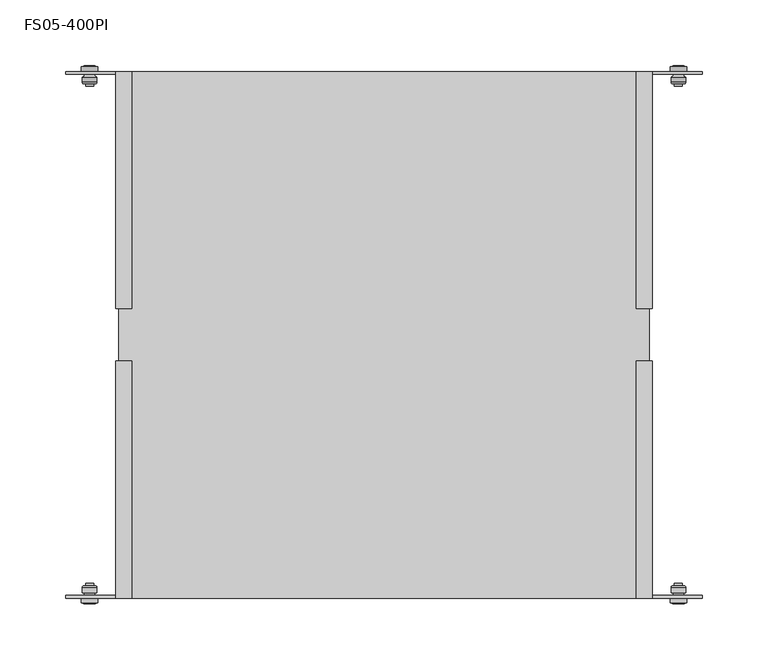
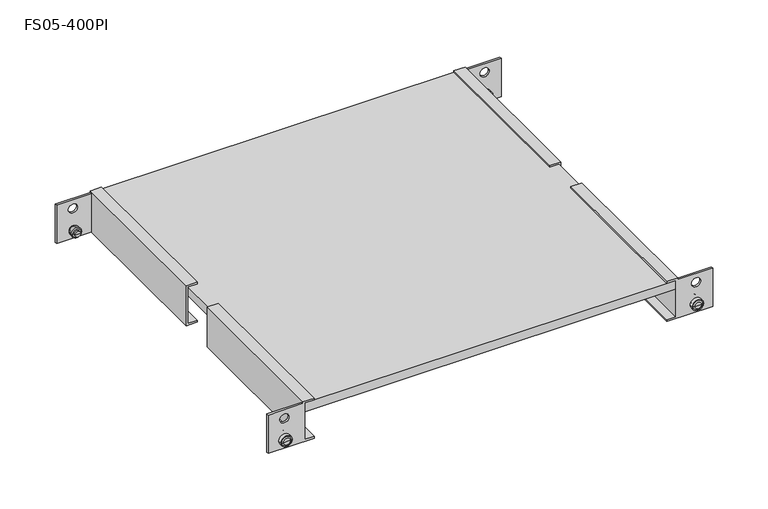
"""IFC4 building model written with IfcOpenShell, lengths in millimetres: proxy geometry, Полки стационарные универсальные : FS05-400PI."""

from ifc_helpers import new_model, si_unit, point, frame, origin, place, context, project, spatial, polyline, circle_curve, ellipse_curve, trimmed, outline, extrude, source, transform, mapped, element, save
from ifc_brep_helpers import plane_surface, cylinder_surface, revolved_surface, advanced_brep


def fs05_400pi_c7cb46ca(model_context):
    return source(origin(), model_context, "Body", "SolidModel", [
        advanced_brep(
        [(223.4822805, 204.3499926, 10.0), (219.9883481, 204.3499926, 10.0), (226.9762128, 204.3499926, 10.0), (226.4822791, 188.7499968, 10.0), (220.4822818, 188.7499968, 10.0), (223.4822805, 188.7499968, 10.0), (226.4822791, 190.7999942, 10.0), (220.4822818, 190.7999942, 10.0), (227.9855464, 190.7999942, 10.0), (218.9790145, 190.7999942, 10.0), (228.9822767, 191.7967245, 10.0), (217.9822842, 191.7967245, 10.0), (228.9822767, 195.8, 10.0), (217.9822842, 195.8, 10.0), (227.6556322, 198.0, 10.0), (219.3089288, 198.0, 10.0), (227.6556322, 200.0, 10.0), (219.3089288, 200.0, 10.0), (229.732282, 200.0, 10.0), (217.232279, 200.0, 10.0), (229.732282, 203.5000006, 10.0), (217.232279, 203.5000006, 10.0), (228.8604456, 203.5000006, 10.0), (218.1041154, 203.5000006, 10.0)],
        [
            (0, 1),
            (1, 2, circle_curve(frame((223.4822805, 204.3499926, 10.0), z_axis=(0.0, 1.0, 0.0), x_axis=(-1.0, 0.0, 0.0)), 3.4939324)),
            (2, 0),
            (2, 1, circle_curve(frame((223.4822805, 204.3499926, 10.0), z_axis=(0.0, 1.0, 0.0), x_axis=(-1.0, 0.0, 0.0)), 3.4939324)),
            (3, 4, circle_curve(frame((223.4822805, 188.7499968, 10.0), z_axis=(0.0, -1.0, 0.0), x_axis=(-1.0, 0.0, 0.0)), 2.9999986)),
            (4, 5),
            (5, 3),
            (4, 3, circle_curve(frame((223.4822805, 188.7499968, 10.0), z_axis=(0.0, -1.0, 0.0), x_axis=(-1.0, 0.0, 0.0)), 2.9999986)),
            (6, 7, circle_curve(frame((223.4822805, 190.7999942, 10.0), z_axis=(0.0, -1.0, 0.0), x_axis=(-1.0, 0.0, 0.0)), 2.9999986)),
            (7, 4),
            (3, 6),
            (7, 6, circle_curve(frame((223.4822805, 190.7999942, 10.0), z_axis=(0.0, -1.0, 0.0), x_axis=(-1.0, 0.0, 0.0)), 2.9999986)),
            (8, 9, circle_curve(frame((223.4822805, 190.7999942, 10.0), z_axis=(0.0, -1.0, 0.0), x_axis=(-1.0, 0.0, 0.0)), 4.503266)),
            (9, 7),
            (6, 8),
            (9, 8, circle_curve(frame((223.4822805, 190.7999942, 10.0), z_axis=(0.0, -1.0, 0.0), x_axis=(-1.0, 0.0, 0.0)), 4.503266)),
            (10, 11, circle_curve(frame((223.4822805, 191.7967245, 10.0), z_axis=(0.0, -1.0, 0.0), x_axis=(-1.0, 0.0, 0.0)), 5.4999962)),
            (11, 9, circle_curve(frame((218.9790145, 191.7967245, 10.0), z_axis=(0.0, 0.0, 1.0), x_axis=(1.0, 0.0, 0.0)), 0.9967303)),
            (8, 10, circle_curve(frame((227.9855464, 191.7967245, 10.0), z_axis=(0.0, 0.0, 1.0), x_axis=(-1.0, 0.0, 0.0)), 0.9967303)),
            (11, 10, circle_curve(frame((223.4822805, 191.7967245, 10.0), z_axis=(0.0, -1.0, 0.0), x_axis=(-1.0, 0.0, 0.0)), 5.4999962)),
            (12, 13, circle_curve(frame((223.4822805, 195.8, 10.0), z_axis=(0.0, -1.0, 0.0), x_axis=(-1.0, 0.0, 0.0)), 5.4999962)),
            (13, 11),
            (10, 12),
            (13, 12, circle_curve(frame((223.4822805, 195.8, 10.0), z_axis=(0.0, -1.0, 0.0), x_axis=(-1.0, 0.0, 0.0)), 5.4999962)),
            (14, 15, circle_curve(frame((223.4822805, 198.0, 10.0), z_axis=(0.0, -1.0, 0.0), x_axis=(-1.0, 0.0, 0.0)), 4.1733517)),
            (15, 13, circle_curve(frame((217.9822789, 197.3, 10.0), z_axis=(0.0, 0.0, -1.0), x_axis=(1.0, 0.0, 0.0)), 1.5)),
            (12, 14, circle_curve(frame((228.9822821, 197.3, 10.0), z_axis=(0.0, 0.0, -1.0), x_axis=(-1.0, 0.0, 0.0)), 1.5)),
            (15, 14, circle_curve(frame((223.4822805, 198.0, 10.0), z_axis=(0.0, -1.0, 0.0), x_axis=(-1.0, 0.0, 0.0)), 4.1733517)),
            (16, 17, circle_curve(frame((223.4822805, 200.0, 10.0), z_axis=(0.0, -1.0, 0.0), x_axis=(-1.0, 0.0, 0.0)), 4.1733517)),
            (17, 15),
            (14, 16),
            (17, 16, circle_curve(frame((223.4822805, 200.0, 10.0), z_axis=(0.0, -1.0, 0.0), x_axis=(-1.0, 0.0, 0.0)), 4.1733517)),
            (18, 19, circle_curve(frame((223.4822805, 200.0, 10.0), z_axis=(0.0, -1.0, 0.0), x_axis=(-1.0, 0.0, 0.0)), 6.2500015)),
            (19, 17),
            (16, 18),
            (19, 18, circle_curve(frame((223.4822805, 200.0, 10.0), z_axis=(0.0, -1.0, 0.0), x_axis=(-1.0, 0.0, 0.0)), 6.2500015)),
            (20, 21, circle_curve(frame((223.4822805, 203.5000006, 10.0), z_axis=(0.0, -1.0, 0.0), x_axis=(-1.0, 0.0, 0.0)), 6.2500015)),
            (21, 19),
            (18, 20),
            (21, 20, circle_curve(frame((223.4822805, 203.5000006, 10.0), z_axis=(0.0, -1.0, 0.0), x_axis=(-1.0, 0.0, 0.0)), 6.2500015)),
            (22, 23, circle_curve(frame((223.4822805, 203.5000006, 10.0), z_axis=(0.0, -1.0, 0.0), x_axis=(-1.0, 0.0, 0.0)), 5.3781651)),
            (23, 21),
            (20, 22),
            (23, 22, circle_curve(frame((223.4822805, 203.5000006, 10.0), z_axis=(0.0, -1.0, 0.0), x_axis=(-1.0, 0.0, 0.0)), 5.3781651)),
            (1, 23, circle_curve(frame((219.9822789, 201.85, 10.0), z_axis=(0.0, 0.0, 1.0), x_axis=(1.0, 0.0, 0.0)), 2.5)),
            (22, 2, circle_curve(frame((226.9822821, 201.85, 10.0), z_axis=(0.0, 0.0, 1.0), x_axis=(-1.0, 0.0, 0.0)), 2.5)),
        ],
        [
            plane_surface(frame((223.4822805, 204.3499926, 10.0), z_axis=(0.0, 1.0, 0.0), x_axis=(-1.0, 0.0, 0.0))),
            plane_surface(frame((223.4822805, 188.7499968, 10.0), z_axis=(0.0, -1.0, 0.0), x_axis=(-1.0, 0.0, 0.0))),
            cylinder_surface(frame((223.4822805, -2409.0581012, 10.0), z_axis=(0.0, 1.0, 0.0), x_axis=(-1.0, 0.0, 0.0)), 2.9999986),
            plane_surface(frame((223.4822805, 190.7999942, 10.0), z_axis=(0.0, -1.0, 0.0), x_axis=(-1.0, 0.0, 0.0))),
            revolved_surface(trimmed(ellipse_curve(frame((218.9790145, 191.7967245, 10.0), z_axis=(0.0, 0.0, -1.0), x_axis=(1.0, 0.0, 0.0)), 0.9967303, 0.9967303), [point((218.9790145, 190.7999942, 10.0))], [point((217.9822842, 191.7967245, 10.0))], True, "CARTESIAN"), (223.4822805, -2409.0581012, 10.0), (0.0, 1.0, 0.0)),
            cylinder_surface(frame((223.4822805, -2409.0581012, 10.0), z_axis=(0.0, 1.0, 0.0), x_axis=(-1.0, 0.0, 0.0)), 5.4999962),
            revolved_surface(trimmed(ellipse_curve(frame((217.9822789, 197.3, 10.0), z_axis=(0.0, 0.0, 1.0), x_axis=(1.0, 0.0, 0.0)), 1.5, 1.5), [point((217.9822842, 195.8, 10.0))], [point((219.3089288, 198.0, 10.0))], True, "CARTESIAN"), (223.4822805, -2409.0581012, 10.0), (0.0, 1.0, 0.0)),
            cylinder_surface(frame((223.4822805, -2409.0581012, 10.0), z_axis=(0.0, 1.0, 0.0), x_axis=(-1.0, 0.0, 0.0)), 4.1733517),
            plane_surface(frame((223.4822805, 200.0, 10.0), z_axis=(0.0, -1.0, 0.0), x_axis=(-1.0, 0.0, 0.0))),
            cylinder_surface(frame((223.4822805, -2409.0581012, 10.0), z_axis=(0.0, 1.0, 0.0), x_axis=(-1.0, 0.0, 0.0)), 6.2500015),
            plane_surface(frame((223.4822805, 203.5000006, 10.0), z_axis=(0.0, 1.0, 0.0), x_axis=(-1.0, 0.0, 0.0))),
            revolved_surface(trimmed(ellipse_curve(frame((219.9822789, 201.85, 10.0), z_axis=(0.0, 0.0, -1.0), x_axis=(1.0, 0.0, 0.0)), 2.5, 2.5), [point((218.1041154, 203.5000006, 10.0))], [point((219.9883481, 204.3499926, 10.0))], True, "CARTESIAN"), (223.4822805, -2409.0581012, 10.0), (0.0, 1.0, 0.0)),
        ],
        [
            (0, [[1, 2, 3]]),
            (0, [[-3, 4, -1]]),
            (1, [[5, 6, 7]]),
            (1, [[8, -7, -6]]),
            (2, [[9, 10, -5, 11]]),
            (2, [[12, -11, -8, -10]]),
            (3, [[13, 14, -9, 15]]),
            (3, [[16, -15, -12, -14]]),
            (4, [[17, 18, -13, 19]]),
            (4, [[20, -19, -16, -18]]),
            (5, [[21, 22, -17, 23]]),
            (5, [[24, -23, -20, -22]]),
            (6, [[25, 26, -21, 27]]),
            (6, [[28, -27, -24, -26]]),
            (7, [[29, 30, -25, 31]]),
            (7, [[32, -31, -28, -30]]),
            (8, [[33, 34, -29, 35]]),
            (8, [[36, -35, -32, -34]]),
            (9, [[37, 38, -33, 39]]),
            (9, [[40, -39, -36, -38]]),
            (10, [[41, 42, -37, 43]]),
            (10, [[44, -43, -40, -42]]),
            (11, [[-2, 45, -41, 46]]),
            (11, [[-4, -46, -44, -45]]),
        ],
    ),
        advanced_brep(
        [(-223.4822805, 204.3499926, 10.0), (-226.9762128, 204.3499926, 10.0), (-219.9883481, 204.3499926, 10.0), (-220.4822818, 188.7499968, 10.0), (-226.4822791, 188.7499968, 10.0), (-223.4822805, 188.7499968, 10.0), (-220.4822818, 190.7999942, 10.0), (-226.4822791, 190.7999942, 10.0), (-218.9790145, 190.7999942, 10.0), (-227.9855464, 190.7999942, 10.0), (-217.9822842, 191.7967245, 10.0), (-228.9822767, 191.7967245, 10.0), (-217.9822842, 195.8, 10.0), (-228.9822767, 195.8, 10.0), (-219.3089288, 198.0, 10.0), (-227.6556322, 198.0, 10.0), (-219.3089288, 200.0, 10.0), (-227.6556322, 200.0, 10.0), (-217.232279, 200.0, 10.0), (-229.732282, 200.0, 10.0), (-217.232279, 203.5000006, 10.0), (-229.732282, 203.5000006, 10.0), (-218.1041154, 203.5000006, 10.0), (-228.8604456, 203.5000006, 10.0)],
        [
            (0, 1),
            (1, 2, circle_curve(frame((-223.4822805, 204.3499926, 10.0), z_axis=(0.0, 1.0, 0.0), x_axis=(-1.0, 0.0, 0.0)), 3.4939324)),
            (2, 0),
            (2, 1, circle_curve(frame((-223.4822805, 204.3499926, 10.0), z_axis=(0.0, 1.0, 0.0), x_axis=(-1.0, 0.0, 0.0)), 3.4939324)),
            (3, 4, circle_curve(frame((-223.4822805, 188.7499968, 10.0), z_axis=(0.0, -1.0, 0.0), x_axis=(-1.0, 0.0, 0.0)), 2.9999986)),
            (4, 5),
            (5, 3),
            (4, 3, circle_curve(frame((-223.4822805, 188.7499968, 10.0), z_axis=(0.0, -1.0, 0.0), x_axis=(-1.0, 0.0, 0.0)), 2.9999986)),
            (6, 7, circle_curve(frame((-223.4822805, 190.7999942, 10.0), z_axis=(0.0, -1.0, 0.0), x_axis=(-1.0, 0.0, 0.0)), 2.9999986)),
            (7, 4),
            (3, 6),
            (7, 6, circle_curve(frame((-223.4822805, 190.7999942, 10.0), z_axis=(0.0, -1.0, 0.0), x_axis=(-1.0, 0.0, 0.0)), 2.9999986)),
            (8, 9, circle_curve(frame((-223.4822805, 190.7999942, 10.0), z_axis=(0.0, -1.0, 0.0), x_axis=(-1.0, 0.0, 0.0)), 4.503266)),
            (9, 7),
            (6, 8),
            (9, 8, circle_curve(frame((-223.4822805, 190.7999942, 10.0), z_axis=(0.0, -1.0, 0.0), x_axis=(-1.0, 0.0, 0.0)), 4.503266)),
            (10, 11, circle_curve(frame((-223.4822805, 191.7967245, 10.0), z_axis=(0.0, -1.0, 0.0), x_axis=(-1.0, 0.0, 0.0)), 5.4999962)),
            (11, 9, circle_curve(frame((-227.9855464, 191.7967245, 10.0), z_axis=(0.0, 0.0, 1.0), x_axis=(1.0, 0.0, 0.0)), 0.9967303)),
            (8, 10, circle_curve(frame((-218.9790145, 191.7967245, 10.0), z_axis=(0.0, 0.0, 1.0), x_axis=(-1.0, 0.0, 0.0)), 0.9967303)),
            (11, 10, circle_curve(frame((-223.4822805, 191.7967245, 10.0), z_axis=(0.0, -1.0, 0.0), x_axis=(-1.0, 0.0, 0.0)), 5.4999962)),
            (12, 13, circle_curve(frame((-223.4822805, 195.8, 10.0), z_axis=(0.0, -1.0, 0.0), x_axis=(-1.0, 0.0, 0.0)), 5.4999962)),
            (13, 11),
            (10, 12),
            (13, 12, circle_curve(frame((-223.4822805, 195.8, 10.0), z_axis=(0.0, -1.0, 0.0), x_axis=(-1.0, 0.0, 0.0)), 5.4999962)),
            (14, 15, circle_curve(frame((-223.4822805, 198.0, 10.0), z_axis=(0.0, -1.0, 0.0), x_axis=(-1.0, 0.0, 0.0)), 4.1733517)),
            (15, 13, circle_curve(frame((-228.9822821, 197.3, 10.0), z_axis=(0.0, 0.0, -1.0), x_axis=(1.0, 0.0, 0.0)), 1.5)),
            (12, 14, circle_curve(frame((-217.9822789, 197.3, 10.0), z_axis=(0.0, 0.0, -1.0), x_axis=(-1.0, 0.0, 0.0)), 1.5)),
            (15, 14, circle_curve(frame((-223.4822805, 198.0, 10.0), z_axis=(0.0, -1.0, 0.0), x_axis=(-1.0, 0.0, 0.0)), 4.1733517)),
            (16, 17, circle_curve(frame((-223.4822805, 200.0, 10.0), z_axis=(0.0, -1.0, 0.0), x_axis=(-1.0, 0.0, 0.0)), 4.1733517)),
            (17, 15),
            (14, 16),
            (17, 16, circle_curve(frame((-223.4822805, 200.0, 10.0), z_axis=(0.0, -1.0, 0.0), x_axis=(-1.0, 0.0, 0.0)), 4.1733517)),
            (18, 19, circle_curve(frame((-223.4822805, 200.0, 10.0), z_axis=(0.0, -1.0, 0.0), x_axis=(-1.0, 0.0, 0.0)), 6.2500015)),
            (19, 17),
            (16, 18),
            (19, 18, circle_curve(frame((-223.4822805, 200.0, 10.0), z_axis=(0.0, -1.0, 0.0), x_axis=(-1.0, 0.0, 0.0)), 6.2500015)),
            (20, 21, circle_curve(frame((-223.4822805, 203.5000006, 10.0), z_axis=(0.0, -1.0, 0.0), x_axis=(-1.0, 0.0, 0.0)), 6.2500015)),
            (21, 19),
            (18, 20),
            (21, 20, circle_curve(frame((-223.4822805, 203.5000006, 10.0), z_axis=(0.0, -1.0, 0.0), x_axis=(-1.0, 0.0, 0.0)), 6.2500015)),
            (22, 23, circle_curve(frame((-223.4822805, 203.5000006, 10.0), z_axis=(0.0, -1.0, 0.0), x_axis=(-1.0, 0.0, 0.0)), 5.3781651)),
            (23, 21),
            (20, 22),
            (23, 22, circle_curve(frame((-223.4822805, 203.5000006, 10.0), z_axis=(0.0, -1.0, 0.0), x_axis=(-1.0, 0.0, 0.0)), 5.3781651)),
            (1, 23, circle_curve(frame((-226.9822821, 201.85, 10.0), z_axis=(0.0, 0.0, 1.0), x_axis=(1.0, 0.0, 0.0)), 2.5)),
            (22, 2, circle_curve(frame((-219.9822789, 201.85, 10.0), z_axis=(0.0, 0.0, 1.0), x_axis=(-1.0, 0.0, 0.0)), 2.5)),
        ],
        [
            plane_surface(frame((-223.4822805, 204.3499926, 10.0), z_axis=(0.0, 1.0, 0.0), x_axis=(-1.0, 0.0, 0.0))),
            plane_surface(frame((-223.4822805, 188.7499968, 10.0), z_axis=(0.0, -1.0, 0.0), x_axis=(-1.0, 0.0, 0.0))),
            cylinder_surface(frame((-223.4822805, -2409.0581012, 10.0), z_axis=(0.0, 1.0, 0.0), x_axis=(-1.0, 0.0, 0.0)), 2.9999986),
            plane_surface(frame((-223.4822805, 190.7999942, 10.0), z_axis=(0.0, -1.0, 0.0), x_axis=(-1.0, 0.0, 0.0))),
            revolved_surface(trimmed(ellipse_curve(frame((-227.9855464, 191.7967245, 10.0), z_axis=(0.0, 0.0, -1.0), x_axis=(1.0, 0.0, 0.0)), 0.9967303, 0.9967303), [point((-227.9855464, 190.7999942, 10.0))], [point((-228.9822767, 191.7967245, 10.0))], True, "CARTESIAN"), (-223.4822805, -2409.0581012, 10.0), (0.0, 1.0, 0.0)),
            cylinder_surface(frame((-223.4822805, -2409.0581012, 10.0), z_axis=(0.0, 1.0, 0.0), x_axis=(-1.0, 0.0, 0.0)), 5.4999962),
            revolved_surface(trimmed(ellipse_curve(frame((-228.9822821, 197.3, 10.0), z_axis=(0.0, 0.0, 1.0), x_axis=(1.0, 0.0, 0.0)), 1.5, 1.5), [point((-228.9822767, 195.8, 10.0))], [point((-227.6556322, 198.0, 10.0))], True, "CARTESIAN"), (-223.4822805, -2409.0581012, 10.0), (0.0, 1.0, 0.0)),
            cylinder_surface(frame((-223.4822805, -2409.0581012, 10.0), z_axis=(0.0, 1.0, 0.0), x_axis=(-1.0, 0.0, 0.0)), 4.1733517),
            plane_surface(frame((-223.4822805, 200.0, 10.0), z_axis=(0.0, -1.0, 0.0), x_axis=(-1.0, 0.0, 0.0))),
            cylinder_surface(frame((-223.4822805, -2409.0581012, 10.0), z_axis=(0.0, 1.0, 0.0), x_axis=(-1.0, 0.0, 0.0)), 6.2500015),
            plane_surface(frame((-223.4822805, 203.5000006, 10.0), z_axis=(0.0, 1.0, 0.0), x_axis=(-1.0, 0.0, 0.0))),
            revolved_surface(trimmed(ellipse_curve(frame((-226.9822821, 201.85, 10.0), z_axis=(0.0, 0.0, -1.0), x_axis=(1.0, 0.0, 0.0)), 2.5, 2.5), [point((-228.8604456, 203.5000006, 10.0))], [point((-226.9762128, 204.3499926, 10.0))], True, "CARTESIAN"), (-223.4822805, -2409.0581012, 10.0), (0.0, 1.0, 0.0)),
        ],
        [
            (0, [[1, 2, 3]]),
            (0, [[-3, 4, -1]]),
            (1, [[5, 6, 7]]),
            (1, [[8, -7, -6]]),
            (2, [[9, 10, -5, 11]]),
            (2, [[12, -11, -8, -10]]),
            (3, [[13, 14, -9, 15]]),
            (3, [[16, -15, -12, -14]]),
            (4, [[17, 18, -13, 19]]),
            (4, [[20, -19, -16, -18]]),
            (5, [[21, 22, -17, 23]]),
            (5, [[24, -23, -20, -22]]),
            (6, [[25, 26, -21, 27]]),
            (6, [[28, -27, -24, -26]]),
            (7, [[29, 30, -25, 31]]),
            (7, [[32, -31, -28, -30]]),
            (8, [[33, 34, -29, 35]]),
            (8, [[36, -35, -32, -34]]),
            (9, [[37, 38, -33, 39]]),
            (9, [[40, -39, -36, -38]]),
            (10, [[41, 42, -37, 43]]),
            (10, [[44, -43, -40, -42]]),
            (11, [[-2, 45, -41, 46]]),
            (11, [[-4, -46, -44, -45]]),
        ],
    ),
        advanced_brep(
        [(-223.4822805, -204.3499926, 10.0), (-219.9883481, -204.3499926, 10.0), (-226.9762128, -204.3499926, 10.0), (-226.4822791, -188.7499968, 10.0), (-220.4822818, -188.7499968, 10.0), (-223.4822805, -188.7499968, 10.0), (-226.4822791, -190.7999942, 10.0), (-220.4822818, -190.7999942, 10.0), (-227.9855464, -190.7999942, 10.0), (-218.9790145, -190.7999942, 10.0), (-228.9822767, -191.7967245, 10.0), (-217.9822842, -191.7967245, 10.0), (-228.9822767, -195.8, 10.0), (-217.9822842, -195.8, 10.0), (-227.6556322, -198.0, 10.0), (-219.3089288, -198.0, 10.0), (-227.6556322, -200.0, 10.0), (-219.3089288, -200.0, 10.0), (-229.732282, -200.0, 10.0), (-217.232279, -200.0, 10.0), (-229.732282, -203.5000006, 10.0), (-217.232279, -203.5000006, 10.0), (-228.8604456, -203.5000006, 10.0), (-218.1041154, -203.5000006, 10.0)],
        [
            (0, 1),
            (1, 2, circle_curve(frame((-223.4822805, -204.3499926, 10.0), z_axis=(0.0, -1.0, 0.0), x_axis=(1.0, 0.0, 0.0)), 3.4939324)),
            (2, 0),
            (2, 1, circle_curve(frame((-223.4822805, -204.3499926, 10.0), z_axis=(0.0, -1.0, 0.0), x_axis=(1.0, 0.0, 0.0)), 3.4939324)),
            (3, 4, circle_curve(frame((-223.4822805, -188.7499968, 10.0), z_axis=(0.0, 1.0, 0.0), x_axis=(1.0, 0.0, 0.0)), 2.9999986)),
            (4, 5),
            (5, 3),
            (4, 3, circle_curve(frame((-223.4822805, -188.7499968, 10.0), z_axis=(0.0, 1.0, 0.0), x_axis=(1.0, 0.0, 0.0)), 2.9999986)),
            (6, 7, circle_curve(frame((-223.4822805, -190.7999942, 10.0), z_axis=(0.0, 1.0, 0.0), x_axis=(1.0, 0.0, 0.0)), 2.9999986)),
            (7, 4),
            (3, 6),
            (7, 6, circle_curve(frame((-223.4822805, -190.7999942, 10.0), z_axis=(0.0, 1.0, 0.0), x_axis=(1.0, 0.0, 0.0)), 2.9999986)),
            (8, 9, circle_curve(frame((-223.4822805, -190.7999942, 10.0), z_axis=(0.0, 1.0, 0.0), x_axis=(1.0, 0.0, 0.0)), 4.503266)),
            (9, 7),
            (6, 8),
            (9, 8, circle_curve(frame((-223.4822805, -190.7999942, 10.0), z_axis=(0.0, 1.0, 0.0), x_axis=(1.0, 0.0, 0.0)), 4.503266)),
            (10, 11, circle_curve(frame((-223.4822805, -191.7967245, 10.0), z_axis=(0.0, 1.0, 0.0), x_axis=(1.0, 0.0, 0.0)), 5.4999962)),
            (11, 9, circle_curve(frame((-218.9790145, -191.7967245, 10.0), z_axis=(0.0, 0.0, 1.0), x_axis=(-1.0, 0.0, 0.0)), 0.9967303)),
            (8, 10, circle_curve(frame((-227.9855464, -191.7967245, 10.0), z_axis=(0.0, 0.0, 1.0), x_axis=(1.0, 0.0, 0.0)), 0.9967303)),
            (11, 10, circle_curve(frame((-223.4822805, -191.7967245, 10.0), z_axis=(0.0, 1.0, 0.0), x_axis=(1.0, 0.0, 0.0)), 5.4999962)),
            (12, 13, circle_curve(frame((-223.4822805, -195.8, 10.0), z_axis=(0.0, 1.0, 0.0), x_axis=(1.0, 0.0, 0.0)), 5.4999962)),
            (13, 11),
            (10, 12),
            (13, 12, circle_curve(frame((-223.4822805, -195.8, 10.0), z_axis=(0.0, 1.0, 0.0), x_axis=(1.0, 0.0, 0.0)), 5.4999962)),
            (14, 15, circle_curve(frame((-223.4822805, -198.0, 10.0), z_axis=(0.0, 1.0, 0.0), x_axis=(1.0, 0.0, 0.0)), 4.1733517)),
            (15, 13, circle_curve(frame((-217.9822789, -197.3, 10.0), z_axis=(0.0, 0.0, -1.0), x_axis=(-1.0, 0.0, 0.0)), 1.5)),
            (12, 14, circle_curve(frame((-228.9822821, -197.3, 10.0), z_axis=(0.0, 0.0, -1.0), x_axis=(1.0, 0.0, 0.0)), 1.5)),
            (15, 14, circle_curve(frame((-223.4822805, -198.0, 10.0), z_axis=(0.0, 1.0, 0.0), x_axis=(1.0, 0.0, 0.0)), 4.1733517)),
            (16, 17, circle_curve(frame((-223.4822805, -200.0, 10.0), z_axis=(0.0, 1.0, 0.0), x_axis=(1.0, 0.0, 0.0)), 4.1733517)),
            (17, 15),
            (14, 16),
            (17, 16, circle_curve(frame((-223.4822805, -200.0, 10.0), z_axis=(0.0, 1.0, 0.0), x_axis=(1.0, 0.0, 0.0)), 4.1733517)),
            (18, 19, circle_curve(frame((-223.4822805, -200.0, 10.0), z_axis=(0.0, 1.0, 0.0), x_axis=(1.0, 0.0, 0.0)), 6.2500015)),
            (19, 17),
            (16, 18),
            (19, 18, circle_curve(frame((-223.4822805, -200.0, 10.0), z_axis=(0.0, 1.0, 0.0), x_axis=(1.0, 0.0, 0.0)), 6.2500015)),
            (20, 21, circle_curve(frame((-223.4822805, -203.5000006, 10.0), z_axis=(0.0, 1.0, 0.0), x_axis=(1.0, 0.0, 0.0)), 6.2500015)),
            (21, 19),
            (18, 20),
            (21, 20, circle_curve(frame((-223.4822805, -203.5000006, 10.0), z_axis=(0.0, 1.0, 0.0), x_axis=(1.0, 0.0, 0.0)), 6.2500015)),
            (22, 23, circle_curve(frame((-223.4822805, -203.5000006, 10.0), z_axis=(0.0, 1.0, 0.0), x_axis=(1.0, 0.0, 0.0)), 5.3781651)),
            (23, 21),
            (20, 22),
            (23, 22, circle_curve(frame((-223.4822805, -203.5000006, 10.0), z_axis=(0.0, 1.0, 0.0), x_axis=(1.0, 0.0, 0.0)), 5.3781651)),
            (1, 23, circle_curve(frame((-219.9822789, -201.85, 10.0), z_axis=(0.0, 0.0, 1.0), x_axis=(-1.0, 0.0, 0.0)), 2.5)),
            (22, 2, circle_curve(frame((-226.9822821, -201.85, 10.0), z_axis=(0.0, 0.0, 1.0), x_axis=(1.0, 0.0, 0.0)), 2.5)),
        ],
        [
            plane_surface(frame((-223.4822805, -204.3499926, 10.0), z_axis=(0.0, -1.0, 0.0), x_axis=(1.0, 0.0, 0.0))),
            plane_surface(frame((-223.4822805, -188.7499968, 10.0), z_axis=(0.0, 1.0, 0.0), x_axis=(1.0, 0.0, 0.0))),
            cylinder_surface(frame((-223.4822805, 2409.0581012, 10.0), z_axis=(0.0, -1.0, 0.0), x_axis=(1.0, 0.0, 0.0)), 2.9999986),
            plane_surface(frame((-223.4822805, -190.7999942, 10.0), z_axis=(0.0, 1.0, 0.0), x_axis=(1.0, 0.0, 0.0))),
            revolved_surface(trimmed(ellipse_curve(frame((-218.9790145, -191.7967245, 10.0), z_axis=(0.0, 0.0, -1.0), x_axis=(-1.0, 0.0, 0.0)), 0.9967303, 0.9967303), [point((-218.9790145, -190.7999942, 10.0))], [point((-217.9822842, -191.7967245, 10.0))], True, "CARTESIAN"), (-223.4822805, 2409.0581012, 10.0), (0.0, -1.0, 0.0)),
            cylinder_surface(frame((-223.4822805, 2409.0581012, 10.0), z_axis=(0.0, -1.0, 0.0), x_axis=(1.0, 0.0, 0.0)), 5.4999962),
            revolved_surface(trimmed(ellipse_curve(frame((-217.9822789, -197.3, 10.0), z_axis=(0.0, 0.0, 1.0), x_axis=(-1.0, 0.0, 0.0)), 1.5, 1.5), [point((-217.9822842, -195.8, 10.0))], [point((-219.3089288, -198.0, 10.0))], True, "CARTESIAN"), (-223.4822805, 2409.0581012, 10.0), (0.0, -1.0, 0.0)),
            cylinder_surface(frame((-223.4822805, 2409.0581012, 10.0), z_axis=(0.0, -1.0, 0.0), x_axis=(1.0, 0.0, 0.0)), 4.1733517),
            plane_surface(frame((-223.4822805, -200.0, 10.0), z_axis=(0.0, 1.0, 0.0), x_axis=(1.0, 0.0, 0.0))),
            cylinder_surface(frame((-223.4822805, 2409.0581012, 10.0), z_axis=(0.0, -1.0, 0.0), x_axis=(1.0, 0.0, 0.0)), 6.2500015),
            plane_surface(frame((-223.4822805, -203.5000006, 10.0), z_axis=(0.0, -1.0, 0.0), x_axis=(1.0, 0.0, 0.0))),
            revolved_surface(trimmed(ellipse_curve(frame((-219.9822789, -201.85, 10.0), z_axis=(0.0, 0.0, -1.0), x_axis=(-1.0, 0.0, 0.0)), 2.5, 2.5), [point((-218.1041154, -203.5000006, 10.0))], [point((-219.9883481, -204.3499926, 10.0))], True, "CARTESIAN"), (-223.4822805, 2409.0581012, 10.0), (0.0, -1.0, 0.0)),
        ],
        [
            (0, [[1, 2, 3]]),
            (0, [[-3, 4, -1]]),
            (1, [[5, 6, 7]]),
            (1, [[8, -7, -6]]),
            (2, [[9, 10, -5, 11]]),
            (2, [[12, -11, -8, -10]]),
            (3, [[13, 14, -9, 15]]),
            (3, [[16, -15, -12, -14]]),
            (4, [[17, 18, -13, 19]]),
            (4, [[20, -19, -16, -18]]),
            (5, [[21, 22, -17, 23]]),
            (5, [[24, -23, -20, -22]]),
            (6, [[25, 26, -21, 27]]),
            (6, [[28, -27, -24, -26]]),
            (7, [[29, 30, -25, 31]]),
            (7, [[32, -31, -28, -30]]),
            (8, [[33, 34, -29, 35]]),
            (8, [[36, -35, -32, -34]]),
            (9, [[37, 38, -33, 39]]),
            (9, [[40, -39, -36, -38]]),
            (10, [[41, 42, -37, 43]]),
            (10, [[44, -43, -40, -42]]),
            (11, [[-2, 45, -41, 46]]),
            (11, [[-4, -46, -44, -45]]),
        ],
    ),
        advanced_brep(
        [(223.4822805, -204.3499926, 10.0), (226.9762128, -204.3499926, 10.0), (219.9883481, -204.3499926, 10.0), (220.4822818, -188.7499968, 10.0), (226.4822791, -188.7499968, 10.0), (223.4822805, -188.7499968, 10.0), (220.4822818, -190.7999942, 10.0), (226.4822791, -190.7999942, 10.0), (218.9790145, -190.7999942, 10.0), (227.9855464, -190.7999942, 10.0), (217.9822842, -191.7967245, 10.0), (228.9822767, -191.7967245, 10.0), (217.9822842, -195.8, 10.0), (228.9822767, -195.8, 10.0), (219.3089288, -198.0, 10.0), (227.6556322, -198.0, 10.0), (219.3089288, -200.0, 10.0), (227.6556322, -200.0, 10.0), (217.232279, -200.0, 10.0), (229.732282, -200.0, 10.0), (217.232279, -203.5000006, 10.0), (229.732282, -203.5000006, 10.0), (218.1041154, -203.5000006, 10.0), (228.8604456, -203.5000006, 10.0)],
        [
            (0, 1),
            (1, 2, circle_curve(frame((223.4822805, -204.3499926, 10.0), z_axis=(0.0, -1.0, 0.0), x_axis=(1.0, 0.0, 0.0)), 3.4939324)),
            (2, 0),
            (2, 1, circle_curve(frame((223.4822805, -204.3499926, 10.0), z_axis=(0.0, -1.0, 0.0), x_axis=(1.0, 0.0, 0.0)), 3.4939324)),
            (3, 4, circle_curve(frame((223.4822805, -188.7499968, 10.0), z_axis=(0.0, 1.0, 0.0), x_axis=(1.0, 0.0, 0.0)), 2.9999986)),
            (4, 5),
            (5, 3),
            (4, 3, circle_curve(frame((223.4822805, -188.7499968, 10.0), z_axis=(0.0, 1.0, 0.0), x_axis=(1.0, 0.0, 0.0)), 2.9999986)),
            (6, 7, circle_curve(frame((223.4822805, -190.7999942, 10.0), z_axis=(0.0, 1.0, 0.0), x_axis=(1.0, 0.0, 0.0)), 2.9999986)),
            (7, 4),
            (3, 6),
            (7, 6, circle_curve(frame((223.4822805, -190.7999942, 10.0), z_axis=(0.0, 1.0, 0.0), x_axis=(1.0, 0.0, 0.0)), 2.9999986)),
            (8, 9, circle_curve(frame((223.4822805, -190.7999942, 10.0), z_axis=(0.0, 1.0, 0.0), x_axis=(1.0, 0.0, 0.0)), 4.503266)),
            (9, 7),
            (6, 8),
            (9, 8, circle_curve(frame((223.4822805, -190.7999942, 10.0), z_axis=(0.0, 1.0, 0.0), x_axis=(1.0, 0.0, 0.0)), 4.503266)),
            (10, 11, circle_curve(frame((223.4822805, -191.7967245, 10.0), z_axis=(0.0, 1.0, 0.0), x_axis=(1.0, 0.0, 0.0)), 5.4999962)),
            (11, 9, circle_curve(frame((227.9855464, -191.7967245, 10.0), z_axis=(0.0, 0.0, 1.0), x_axis=(-1.0, 0.0, 0.0)), 0.9967303)),
            (8, 10, circle_curve(frame((218.9790145, -191.7967245, 10.0), z_axis=(0.0, 0.0, 1.0), x_axis=(1.0, 0.0, 0.0)), 0.9967303)),
            (11, 10, circle_curve(frame((223.4822805, -191.7967245, 10.0), z_axis=(0.0, 1.0, 0.0), x_axis=(1.0, 0.0, 0.0)), 5.4999962)),
            (12, 13, circle_curve(frame((223.4822805, -195.8, 10.0), z_axis=(0.0, 1.0, 0.0), x_axis=(1.0, 0.0, 0.0)), 5.4999962)),
            (13, 11),
            (10, 12),
            (13, 12, circle_curve(frame((223.4822805, -195.8, 10.0), z_axis=(0.0, 1.0, 0.0), x_axis=(1.0, 0.0, 0.0)), 5.4999962)),
            (14, 15, circle_curve(frame((223.4822805, -198.0, 10.0), z_axis=(0.0, 1.0, 0.0), x_axis=(1.0, 0.0, 0.0)), 4.1733517)),
            (15, 13, circle_curve(frame((228.9822821, -197.3, 10.0), z_axis=(0.0, 0.0, -1.0), x_axis=(-1.0, 0.0, 0.0)), 1.5)),
            (12, 14, circle_curve(frame((217.9822789, -197.3, 10.0), z_axis=(0.0, 0.0, -1.0), x_axis=(1.0, 0.0, 0.0)), 1.5)),
            (15, 14, circle_curve(frame((223.4822805, -198.0, 10.0), z_axis=(0.0, 1.0, 0.0), x_axis=(1.0, 0.0, 0.0)), 4.1733517)),
            (16, 17, circle_curve(frame((223.4822805, -200.0, 10.0), z_axis=(0.0, 1.0, 0.0), x_axis=(1.0, 0.0, 0.0)), 4.1733517)),
            (17, 15),
            (14, 16),
            (17, 16, circle_curve(frame((223.4822805, -200.0, 10.0), z_axis=(0.0, 1.0, 0.0), x_axis=(1.0, 0.0, 0.0)), 4.1733517)),
            (18, 19, circle_curve(frame((223.4822805, -200.0, 10.0), z_axis=(0.0, 1.0, 0.0), x_axis=(1.0, 0.0, 0.0)), 6.2500015)),
            (19, 17),
            (16, 18),
            (19, 18, circle_curve(frame((223.4822805, -200.0, 10.0), z_axis=(0.0, 1.0, 0.0), x_axis=(1.0, 0.0, 0.0)), 6.2500015)),
            (20, 21, circle_curve(frame((223.4822805, -203.5000006, 10.0), z_axis=(0.0, 1.0, 0.0), x_axis=(1.0, 0.0, 0.0)), 6.2500015)),
            (21, 19),
            (18, 20),
            (21, 20, circle_curve(frame((223.4822805, -203.5000006, 10.0), z_axis=(0.0, 1.0, 0.0), x_axis=(1.0, 0.0, 0.0)), 6.2500015)),
            (22, 23, circle_curve(frame((223.4822805, -203.5000006, 10.0), z_axis=(0.0, 1.0, 0.0), x_axis=(1.0, 0.0, 0.0)), 5.3781651)),
            (23, 21),
            (20, 22),
            (23, 22, circle_curve(frame((223.4822805, -203.5000006, 10.0), z_axis=(0.0, 1.0, 0.0), x_axis=(1.0, 0.0, 0.0)), 5.3781651)),
            (1, 23, circle_curve(frame((226.9822821, -201.85, 10.0), z_axis=(0.0, 0.0, 1.0), x_axis=(-1.0, 0.0, 0.0)), 2.5)),
            (22, 2, circle_curve(frame((219.9822789, -201.85, 10.0), z_axis=(0.0, 0.0, 1.0), x_axis=(1.0, 0.0, 0.0)), 2.5)),
        ],
        [
            plane_surface(frame((223.4822805, -204.3499926, 10.0), z_axis=(0.0, -1.0, 0.0), x_axis=(1.0, 0.0, 0.0))),
            plane_surface(frame((223.4822805, -188.7499968, 10.0), z_axis=(0.0, 1.0, 0.0), x_axis=(1.0, 0.0, 0.0))),
            cylinder_surface(frame((223.4822805, 2409.0581012, 10.0), z_axis=(0.0, -1.0, 0.0), x_axis=(1.0, 0.0, 0.0)), 2.9999986),
            plane_surface(frame((223.4822805, -190.7999942, 10.0), z_axis=(0.0, 1.0, 0.0), x_axis=(1.0, 0.0, 0.0))),
            revolved_surface(trimmed(ellipse_curve(frame((227.9855464, -191.7967245, 10.0), z_axis=(0.0, 0.0, -1.0), x_axis=(-1.0, 0.0, 0.0)), 0.9967303, 0.9967303), [point((227.9855464, -190.7999942, 10.0))], [point((228.9822767, -191.7967245, 10.0))], True, "CARTESIAN"), (223.4822805, 2409.0581012, 10.0), (0.0, -1.0, 0.0)),
            cylinder_surface(frame((223.4822805, 2409.0581012, 10.0), z_axis=(0.0, -1.0, 0.0), x_axis=(1.0, 0.0, 0.0)), 5.4999962),
            revolved_surface(trimmed(ellipse_curve(frame((228.9822821, -197.3, 10.0), z_axis=(0.0, 0.0, 1.0), x_axis=(-1.0, 0.0, 0.0)), 1.5, 1.5), [point((228.9822767, -195.8, 10.0))], [point((227.6556322, -198.0, 10.0))], True, "CARTESIAN"), (223.4822805, 2409.0581012, 10.0), (0.0, -1.0, 0.0)),
            cylinder_surface(frame((223.4822805, 2409.0581012, 10.0), z_axis=(0.0, -1.0, 0.0), x_axis=(1.0, 0.0, 0.0)), 4.1733517),
            plane_surface(frame((223.4822805, -200.0, 10.0), z_axis=(0.0, 1.0, 0.0), x_axis=(1.0, 0.0, 0.0))),
            cylinder_surface(frame((223.4822805, 2409.0581012, 10.0), z_axis=(0.0, -1.0, 0.0), x_axis=(1.0, 0.0, 0.0)), 6.2500015),
            plane_surface(frame((223.4822805, -203.5000006, 10.0), z_axis=(0.0, -1.0, 0.0), x_axis=(1.0, 0.0, 0.0))),
            revolved_surface(trimmed(ellipse_curve(frame((226.9822821, -201.85, 10.0), z_axis=(0.0, 0.0, -1.0), x_axis=(-1.0, 0.0, 0.0)), 2.5, 2.5), [point((228.8604456, -203.5000006, 10.0))], [point((226.9762128, -204.3499926, 10.0))], True, "CARTESIAN"), (223.4822805, 2409.0581012, 10.0), (0.0, -1.0, 0.0)),
        ],
        [
            (0, [[1, 2, 3]]),
            (0, [[-3, 4, -1]]),
            (1, [[5, 6, 7]]),
            (1, [[8, -7, -6]]),
            (2, [[9, 10, -5, 11]]),
            (2, [[12, -11, -8, -10]]),
            (3, [[13, 14, -9, 15]]),
            (3, [[16, -15, -12, -14]]),
            (4, [[17, 18, -13, 19]]),
            (4, [[20, -19, -16, -18]]),
            (5, [[21, 22, -17, 23]]),
            (5, [[24, -23, -20, -22]]),
            (6, [[25, 26, -21, 27]]),
            (6, [[28, -27, -24, -26]]),
            (7, [[29, 30, -25, 31]]),
            (7, [[32, -31, -28, -30]]),
            (8, [[33, 34, -29, 35]]),
            (8, [[36, -35, -32, -34]]),
            (9, [[37, 38, -33, 39]]),
            (9, [[40, -39, -36, -38]]),
            (10, [[41, 42, -37, 43]]),
            (10, [[44, -43, -40, -42]]),
            (11, [[-2, 45, -41, 46]]),
            (11, [[-4, -46, -44, -45]]),
        ],
    ),
        advanced_brep(
        [(-191.5, -200.0, 44.0), (-191.5, -200.0, 46.0), (-203.5, -200.0, 46.0), (-203.5, -200.0, 44.0), (-241.5, -200.0, 44.0), (-241.5, -200.0, 0.0), (-191.5, -200.0, 0.0), (-191.5, -200.0, 2.0), (-201.5, -200.0, 2.0), (-201.5, -200.0, 44.0), (-218.6086696, -200.0, 34.0), (-228.6086696, -200.0, 34.0), (-191.5, -20.0, 44.0), (-201.5, -20.0, 44.0), (-201.5, -20.0, 2.0), (-191.5, -20.0, 2.0), (-191.5, -20.0, 0.0), (-203.5, -20.0, 0.0), (-203.5, -20.0, 46.0), (-191.5, -20.0, 46.0), (-203.5, -198.0, 0.0), (-203.5, -198.0, 44.0), (-241.5, -198.0, 0.0), (-241.5, -198.0, 44.0), (-228.6086696, -198.0, 34.0), (-218.6086696, -198.0, 34.0)],
        [
            (0, 1),
            (1, 2),
            (2, 3),
            (3, 4),
            (4, 5),
            (5, 6),
            (6, 7),
            (7, 8),
            (8, 9),
            (9, 0),
            (10, 11, circle_curve(frame((-223.6086696, -200.0, 34.0), z_axis=(0.0, 1.0, 0.0), x_axis=(1.0, 0.0, 0.0)), 5.0)),
            (11, 10, circle_curve(frame((-223.6086696, -200.0, 34.0), z_axis=(0.0, 1.0, 0.0), x_axis=(1.0, 0.0, 0.0)), 5.0)),
            (12, 13),
            (13, 14),
            (14, 15),
            (15, 16),
            (16, 17),
            (17, 18),
            (18, 19),
            (19, 12),
            (0, 12),
            (19, 1),
            (18, 2),
            (17, 20),
            (20, 21),
            (21, 3),
            (16, 6),
            (5, 22),
            (22, 20),
            (15, 7),
            (14, 8),
            (13, 9),
            (21, 23),
            (23, 4),
            (22, 23),
            (24, 25, circle_curve(frame((-223.6086696, -198.0, 34.0), z_axis=(0.0, -1.0, 0.0), x_axis=(1.0, 0.0, 0.0)), 5.0)),
            (25, 24, circle_curve(frame((-223.6086696, -198.0, 34.0), z_axis=(0.0, -1.0, 0.0), x_axis=(1.0, 0.0, 0.0)), 5.0)),
            (24, 11),
            (10, 25),
        ],
        [
            plane_surface(frame((-191.5, -200.0, 44.0), z_axis=(0.0, -1.0, 0.0), x_axis=(0.0, 0.0, 1.0))),
            plane_surface(frame((-191.5, -20.0, 44.0), z_axis=(0.0, 1.0, 0.0), x_axis=(0.0, 0.0, -1.0))),
            plane_surface(frame((-191.5, -200.0, 44.0), z_axis=(1.0, 0.0, 0.0), x_axis=(0.0, 1.0, 0.0))),
            plane_surface(frame((-191.5, -200.0, 46.0), z_axis=(0.0, 0.0, 1.0), x_axis=(0.0, 1.0, 0.0))),
            plane_surface(frame((-203.5, -200.0, 46.0), z_axis=(-1.0, 0.0, 0.0), x_axis=(0.0, 1.0, 0.0))),
            plane_surface(frame((-203.5, -200.0, 0.0), z_axis=(0.0, 0.0, -1.0), x_axis=(0.0, 1.0, 0.0))),
            plane_surface(frame((-191.5, -200.0, 0.0), z_axis=(1.0, 0.0, 0.0), x_axis=(0.0, 1.0, 0.0))),
            plane_surface(frame((-191.5, -200.0, 2.0), z_axis=(0.0, 0.0, 1.0), x_axis=(0.0, 1.0, 0.0))),
            plane_surface(frame((-201.5, -200.0, 2.0), z_axis=(1.0, 0.0, 0.0), x_axis=(0.0, 1.0, 0.0))),
            plane_surface(frame((-201.5, -200.0, 44.0), z_axis=(0.0, 0.0, -1.0), x_axis=(0.0, 1.0, 0.0))),
            plane_surface(frame((-203.5, 198.0, 44.0), z_axis=(0.0, 0.0, 1.0), x_axis=(1.0, 0.0, 0.0))),
            plane_surface(frame((-203.5, -198.0, 44.0), z_axis=(0.0, 1.0, 0.0), x_axis=(0.0, 0.0, -1.0))),
            plane_surface(frame((-241.5, -198.0, 44.0), z_axis=(-1.0, 0.0, 0.0), x_axis=(0.0, 0.0, -1.0))),
            revolved_surface(polyline([(-218.6086696, -200.0, 34.0), (-218.6086696, -198.0, 34.0)]), (-223.6086696, 200.0, 34.0), (0.0, -1.0, 0.0)),
        ],
        [
            (0, [[1, 2, 3, 4, 5, 6, 7, 8, 9, 10], [11, 12]]),
            (1, [[13, 14, 15, 16, 17, 18, 19, 20]]),
            (2, [[-1, 21, -20, 22]]),
            (3, [[-2, -22, -19, 23]]),
            (4, [[-18, 24, 25, 26, -3, -23]]),
            (5, [[-17, 27, -6, 28, 29, -24]]),
            (6, [[-7, -27, -16, 30]]),
            (7, [[-8, -30, -15, 31]]),
            (8, [[-9, -31, -14, 32]]),
            (9, [[-10, -32, -13, -21]]),
            (10, [[33, 34, -4, -26]]),
            (11, [[-33, -25, -29, 35], [36, 37]]),
            (12, [[-34, -35, -28, -5]]),
            (13, [[38, -11, 39, -36]]),
            (13, [[-38, -37, -39, -12]]),
        ],
    ),
        advanced_brep(
        [(191.5, -200.0, 44.0), (201.5, -200.0, 44.0), (201.5, -200.0, 2.0), (191.5, -200.0, 2.0), (191.5, -200.0, 0.0), (241.5, -200.0, 0.0), (241.5, -200.0, 44.0), (203.5, -200.0, 44.0), (203.5, -200.0, 46.0), (191.5, -200.0, 46.0), (228.6086696, -200.0, 34.0), (218.6086696, -200.0, 34.0), (191.5, -20.0, 44.0), (191.5, -20.0, 46.0), (203.5, -20.0, 46.0), (203.5, -20.0, 0.0), (191.5, -20.0, 0.0), (191.5, -20.0, 2.0), (201.5, -20.0, 2.0), (201.5, -20.0, 44.0), (203.5, -198.0, 0.0), (241.5, -198.0, 0.0), (203.5, -198.0, 44.0), (241.5, -198.0, 44.0), (218.6086696, -198.0, 34.0), (228.6086696, -198.0, 34.0)],
        [
            (0, 1),
            (1, 2),
            (2, 3),
            (3, 4),
            (4, 5),
            (5, 6),
            (6, 7),
            (7, 8),
            (8, 9),
            (9, 0),
            (10, 11, circle_curve(frame((223.6086696, -200.0, 34.0), z_axis=(0.0, 1.0, 0.0), x_axis=(1.0, 0.0, 0.0)), 5.0)),
            (11, 10, circle_curve(frame((223.6086696, -200.0, 34.0), z_axis=(0.0, 1.0, 0.0), x_axis=(1.0, 0.0, 0.0)), 5.0)),
            (12, 13),
            (13, 14),
            (14, 15),
            (15, 16),
            (16, 17),
            (17, 18),
            (18, 19),
            (19, 12),
            (15, 20),
            (20, 21),
            (21, 5),
            (4, 16),
            (0, 12),
            (19, 1),
            (18, 2),
            (17, 3),
            (14, 8),
            (7, 22),
            (22, 20),
            (13, 9),
            (23, 22),
            (6, 23),
            (23, 21),
            (24, 25, circle_curve(frame((223.6086696, -198.0, 34.0), z_axis=(0.0, -1.0, 0.0), x_axis=(1.0, 0.0, 0.0)), 5.0)),
            (25, 24, circle_curve(frame((223.6086696, -198.0, 34.0), z_axis=(0.0, -1.0, 0.0), x_axis=(1.0, 0.0, 0.0)), 5.0)),
            (24, 11),
            (10, 25),
        ],
        [
            plane_surface(frame((-191.5, -200.0, 44.0), z_axis=(0.0, -1.0, 0.0), x_axis=(0.0, 0.0, 1.0))),
            plane_surface(frame((-191.5, -20.0, 44.0), z_axis=(0.0, 1.0, 0.0), x_axis=(0.0, 0.0, -1.0))),
            plane_surface(frame((-203.5, -200.0, 0.0), z_axis=(0.0, 0.0, -1.0), x_axis=(0.0, 1.0, 0.0))),
            plane_surface(frame((191.5, -200.0, 44.0), z_axis=(0.0, 0.0, -1.0), x_axis=(0.0, 1.0, 0.0))),
            plane_surface(frame((201.5, -200.0, 44.0), z_axis=(-1.0, 0.0, 0.0), x_axis=(0.0, 1.0, 0.0))),
            plane_surface(frame((201.5, -200.0, 2.0), z_axis=(0.0, 0.0, 1.0), x_axis=(0.0, 1.0, 0.0))),
            plane_surface(frame((191.5, -200.0, 2.0), z_axis=(-1.0, 0.0, 0.0), x_axis=(0.0, 1.0, 0.0))),
            plane_surface(frame((203.5, -200.0, 0.0), z_axis=(1.0, 0.0, 0.0), x_axis=(0.0, 1.0, 0.0))),
            plane_surface(frame((203.5, -200.0, 46.0), z_axis=(0.0, 0.0, 1.0), x_axis=(0.0, 1.0, 0.0))),
            plane_surface(frame((191.5, -200.0, 46.0), z_axis=(-1.0, 0.0, 0.0), x_axis=(0.0, 1.0, 0.0))),
            plane_surface(frame((-203.5, 198.0, 44.0), z_axis=(0.0, 0.0, 1.0), x_axis=(1.0, 0.0, 0.0))),
            plane_surface(frame((241.5, -198.0, 44.0), z_axis=(0.0, 1.0, 0.0), x_axis=(0.0, 0.0, -1.0))),
            plane_surface(frame((241.5, -200.0, 44.0), z_axis=(1.0, 0.0, 0.0), x_axis=(0.0, 0.0, -1.0))),
            revolved_surface(polyline([(228.6086696, -200.0, 34.0), (228.6086696, -198.0, 34.0)]), (223.6086696, 0.0, 34.0), (0.0, -1.0, 0.0)),
        ],
        [
            (0, [[1, 2, 3, 4, 5, 6, 7, 8, 9, 10], [11, 12]]),
            (1, [[13, 14, 15, 16, 17, 18, 19, 20]]),
            (2, [[-16, 21, 22, 23, -5, 24]]),
            (3, [[-1, 25, -20, 26]]),
            (4, [[-2, -26, -19, 27]]),
            (5, [[-3, -27, -18, 28]]),
            (6, [[-4, -28, -17, -24]]),
            (7, [[-15, 29, -8, 30, 31, -21]]),
            (8, [[-9, -29, -14, 32]]),
            (9, [[-10, -32, -13, -25]]),
            (10, [[33, -30, -7, 34]]),
            (11, [[-33, 35, -22, -31], [36, 37]]),
            (12, [[-34, -6, -23, -35]]),
            (13, [[38, -11, 39, -36]]),
            (13, [[-38, -37, -39, -12]]),
        ],
    ),
        advanced_brep(
        [(-241.5, 198.0, 0.0), (-241.5, 200.0, 0.0), (-191.5, 200.0, 0.0), (-191.5, 20.0, 0.0), (-203.5, 20.0, 0.0), (-203.5, 198.0, 0.0), (-241.5, 198.0, 44.0), (-203.5, 198.0, 44.0), (-203.5, 200.0, 44.0), (-241.5, 200.0, 44.0), (-218.6086696, 198.0, 34.0), (-228.6086696, 198.0, 34.0), (-203.5, 200.0, 46.0), (-191.5, 200.0, 46.0), (-191.5, 200.0, 44.0), (-201.5, 200.0, 44.0), (-201.5, 200.0, 2.0), (-191.5, 200.0, 2.0), (-228.6086696, 200.0, 34.0), (-218.6086696, 200.0, 34.0), (-191.5, 20.0, 44.0), (-191.5, 20.0, 46.0), (-203.5, 20.0, 46.0), (-191.5, 20.0, 2.0), (-201.5, 20.0, 2.0), (-201.5, 20.0, 44.0)],
        [
            (0, 1),
            (1, 2),
            (2, 3),
            (3, 4),
            (4, 5),
            (5, 0),
            (6, 7),
            (7, 8),
            (8, 9),
            (9, 6),
            (6, 0),
            (5, 7),
            (10, 11, circle_curve(frame((-223.6086696, 198.0, 34.0), z_axis=(0.0, 1.0, 0.0), x_axis=(1.0, 0.0, 0.0)), 5.0)),
            (11, 10, circle_curve(frame((-223.6086696, 198.0, 34.0), z_axis=(0.0, 1.0, 0.0), x_axis=(1.0, 0.0, 0.0)), 5.0)),
            (8, 12),
            (12, 13),
            (13, 14),
            (14, 15),
            (15, 16),
            (16, 17),
            (17, 2),
            (1, 9),
            (18, 19, circle_curve(frame((-223.6086696, 200.0, 34.0), z_axis=(0.0, -1.0, 0.0), x_axis=(1.0, 0.0, 0.0)), 5.0)),
            (19, 18, circle_curve(frame((-223.6086696, 200.0, 34.0), z_axis=(0.0, -1.0, 0.0), x_axis=(1.0, 0.0, 0.0)), 5.0)),
            (20, 21),
            (21, 22),
            (22, 4),
            (3, 23),
            (23, 24),
            (24, 25),
            (25, 20),
            (20, 14),
            (13, 21),
            (12, 22),
            (17, 23),
            (16, 24),
            (15, 25),
            (18, 11),
            (10, 19),
        ],
        [
            plane_surface(frame((-203.5, -200.0, 0.0), z_axis=(0.0, 0.0, -1.0), x_axis=(0.0, 1.0, 0.0))),
            plane_surface(frame((-203.5, 198.0, 44.0), z_axis=(0.0, 0.0, 1.0), x_axis=(1.0, 0.0, 0.0))),
            plane_surface(frame((-241.5, 198.0, 44.0), z_axis=(0.0, -1.0, 0.0), x_axis=(0.0, 0.0, -1.0))),
            plane_surface(frame((-203.5, 200.0, 44.0), z_axis=(0.0, 1.0, 0.0), x_axis=(0.0, 0.0, -1.0))),
            plane_surface(frame((-241.5, 200.0, 44.0), z_axis=(-1.0, 0.0, 0.0), x_axis=(0.0, 0.0, -1.0))),
            plane_surface(frame((-191.5, 20.0, 44.0), z_axis=(0.0, -1.0, 0.0), x_axis=(0.0, 0.0, 1.0))),
            plane_surface(frame((-191.5, 20.0, 44.0), z_axis=(1.0, 0.0, 0.0), x_axis=(0.0, 1.0, 0.0))),
            plane_surface(frame((-191.5, 20.0, 46.0), z_axis=(0.0, 0.0, 1.0), x_axis=(0.0, 1.0, 0.0))),
            plane_surface(frame((-203.5, 20.0, 46.0), z_axis=(-1.0, 0.0, 0.0), x_axis=(0.0, 1.0, 0.0))),
            plane_surface(frame((-191.5, 20.0, 0.0), z_axis=(1.0, 0.0, 0.0), x_axis=(0.0, 1.0, 0.0))),
            plane_surface(frame((-191.5, 20.0, 2.0), z_axis=(0.0, 0.0, 1.0), x_axis=(0.0, 1.0, 0.0))),
            plane_surface(frame((-201.5, 20.0, 2.0), z_axis=(1.0, 0.0, 0.0), x_axis=(0.0, 1.0, 0.0))),
            plane_surface(frame((-201.5, 20.0, 44.0), z_axis=(0.0, 0.0, -1.0), x_axis=(0.0, 1.0, 0.0))),
            revolved_surface(polyline([(-218.6086696, 198.0, 34.0), (-218.6086696, 200.0, 34.0)]), (-223.6086696, 200.0, 34.0), (0.0, -1.0, 0.0)),
        ],
        [
            (0, [[1, 2, 3, 4, 5, 6]]),
            (1, [[7, 8, 9, 10]]),
            (2, [[-7, 11, -6, 12], [13, 14]]),
            (3, [[-9, 15, 16, 17, 18, 19, 20, 21, -2, 22], [23, 24]]),
            (4, [[-10, -22, -1, -11]]),
            (5, [[25, 26, 27, -4, 28, 29, 30, 31]]),
            (6, [[-25, 32, -17, 33]]),
            (7, [[-26, -33, -16, 34]]),
            (8, [[-27, -34, -15, -8, -12, -5]]),
            (9, [[-28, -3, -21, 35]]),
            (10, [[-29, -35, -20, 36]]),
            (11, [[-30, -36, -19, 37]]),
            (12, [[-31, -37, -18, -32]]),
            (13, [[38, -13, 39, -23]]),
            (13, [[-38, -24, -39, -14]]),
        ],
    ),
        advanced_brep(
        [(241.5, 200.0, 0.0), (241.5, 198.0, 0.0), (203.5, 198.0, 0.0), (203.5, 20.0, 0.0), (191.5, 20.0, 0.0), (191.5, 200.0, 0.0), (241.5, 200.0, 44.0), (203.5, 200.0, 44.0), (203.5, 198.0, 44.0), (241.5, 198.0, 44.0), (191.5, 200.0, 2.0), (201.5, 200.0, 2.0), (201.5, 200.0, 44.0), (191.5, 200.0, 44.0), (191.5, 200.0, 46.0), (203.5, 200.0, 46.0), (218.6086696, 200.0, 34.0), (228.6086696, 200.0, 34.0), (228.6086696, 198.0, 34.0), (218.6086696, 198.0, 34.0), (191.5, 20.0, 44.0), (201.5, 20.0, 44.0), (201.5, 20.0, 2.0), (191.5, 20.0, 2.0), (203.5, 20.0, 46.0), (191.5, 20.0, 46.0)],
        [
            (0, 1),
            (1, 2),
            (2, 3),
            (3, 4),
            (4, 5),
            (5, 0),
            (6, 7),
            (7, 8),
            (8, 9),
            (9, 6),
            (6, 0),
            (5, 10),
            (10, 11),
            (11, 12),
            (12, 13),
            (13, 14),
            (14, 15),
            (15, 7),
            (16, 17, circle_curve(frame((223.6086696, 200.0, 34.0), z_axis=(0.0, -1.0, 0.0), x_axis=(1.0, 0.0, 0.0)), 5.0)),
            (17, 16, circle_curve(frame((223.6086696, 200.0, 34.0), z_axis=(0.0, -1.0, 0.0), x_axis=(1.0, 0.0, 0.0)), 5.0)),
            (8, 2),
            (1, 9),
            (18, 19, circle_curve(frame((223.6086696, 198.0, 34.0), z_axis=(0.0, 1.0, 0.0), x_axis=(1.0, 0.0, 0.0)), 5.0)),
            (19, 18, circle_curve(frame((223.6086696, 198.0, 34.0), z_axis=(0.0, 1.0, 0.0), x_axis=(1.0, 0.0, 0.0)), 5.0)),
            (20, 21),
            (21, 22),
            (22, 23),
            (23, 4),
            (3, 24),
            (24, 25),
            (25, 20),
            (20, 13),
            (12, 21),
            (11, 22),
            (10, 23),
            (15, 24),
            (14, 25),
            (16, 19),
            (18, 17),
        ],
        [
            plane_surface(frame((-203.5, -200.0, 0.0), z_axis=(0.0, 0.0, -1.0), x_axis=(0.0, 1.0, 0.0))),
            plane_surface(frame((-203.5, 198.0, 44.0), z_axis=(0.0, 0.0, 1.0), x_axis=(1.0, 0.0, 0.0))),
            plane_surface(frame((-203.5, 200.0, 44.0), z_axis=(0.0, 1.0, 0.0), x_axis=(0.0, 0.0, -1.0))),
            plane_surface(frame((203.5, 198.0, 44.0), z_axis=(0.0, -1.0, 0.0), x_axis=(0.0, 0.0, -1.0))),
            plane_surface(frame((241.5, 198.0, 44.0), z_axis=(1.0, 0.0, 0.0), x_axis=(0.0, 0.0, -1.0))),
            plane_surface(frame((-191.5, 20.0, 44.0), z_axis=(0.0, -1.0, 0.0), x_axis=(0.0, 0.0, 1.0))),
            plane_surface(frame((191.5, 20.0, 44.0), z_axis=(0.0, 0.0, -1.0), x_axis=(0.0, 1.0, 0.0))),
            plane_surface(frame((201.5, 20.0, 44.0), z_axis=(-1.0, 0.0, 0.0), x_axis=(0.0, 1.0, 0.0))),
            plane_surface(frame((201.5, 20.0, 2.0), z_axis=(0.0, 0.0, 1.0), x_axis=(0.0, 1.0, 0.0))),
            plane_surface(frame((191.5, 20.0, 2.0), z_axis=(-1.0, 0.0, 0.0), x_axis=(0.0, 1.0, 0.0))),
            plane_surface(frame((203.5, 20.0, 0.0), z_axis=(1.0, 0.0, 0.0), x_axis=(0.0, 1.0, 0.0))),
            plane_surface(frame((203.5, 20.0, 46.0), z_axis=(0.0, 0.0, 1.0), x_axis=(0.0, 1.0, 0.0))),
            plane_surface(frame((191.5, 20.0, 46.0), z_axis=(-1.0, 0.0, 0.0), x_axis=(0.0, 1.0, 0.0))),
            revolved_surface(polyline([(228.6086696, 198.0, 34.0), (228.6086696, 200.0, 34.0)]), (223.6086696, 0.0, 34.0), (0.0, -1.0, 0.0)),
        ],
        [
            (0, [[1, 2, 3, 4, 5, 6]]),
            (1, [[7, 8, 9, 10]]),
            (2, [[-7, 11, -6, 12, 13, 14, 15, 16, 17, 18], [19, 20]]),
            (3, [[-9, 21, -2, 22], [23, 24]]),
            (4, [[-10, -22, -1, -11]]),
            (5, [[25, 26, 27, 28, -4, 29, 30, 31]]),
            (6, [[-25, 32, -15, 33]]),
            (7, [[-26, -33, -14, 34]]),
            (8, [[-27, -34, -13, 35]]),
            (9, [[-28, -35, -12, -5]]),
            (10, [[-29, -3, -21, -8, -18, 36]]),
            (11, [[-30, -36, -17, 37]]),
            (12, [[-31, -37, -16, -32]]),
            (13, [[38, -23, 39, -19]]),
            (13, [[-38, -20, -39, -24]]),
        ],
    ),
        extrude(outline(polyline([(201.5, 200.0), (201.5, -200.0), (-201.5, -200.0), (-201.5, 200.0), (201.5, 200.0)])), frame((0.0, 0.0, 34.0), z_axis=(0.0, 0.0, 1.0), x_axis=(1.0, 0.0, 0.0)), (0.0, 0.0, 1.0), 10.0),
    ])


if __name__ == "__main__":
    model = new_model("IFC4")
    model_context = context("Model", 3, world=origin())
    ifc_project = project(units=[si_unit("LENGTHUNIT", "METRE", prefix="MILLI")], contexts=[model_context])
    site = spatial("IfcSite", under=ifc_project)
    building = spatial("IfcBuilding", under=site)
    placement = place(None, origin())
    fs05_400pi_shape = fs05_400pi_c7cb46ca(model_context)
    element("IfcBuildingElementProxy", 1, Name="Полки стационарные универсальные : FS05-400PI", ObjectType="Полки стационарные универсальные : FS05-400PI", at=placement, inside=building, context=model_context, shape_type="MappedRepresentation", body=[
        mapped(fs05_400pi_shape, transform((0.0, 0.0, 0.0), x_axis=(1.0, 0.0, 0.0), y_axis=(0.0, 1.0, 0.0), z_axis=(0.0, 0.0, 1.0))),
    ])
    save(model, "model.ifc")
